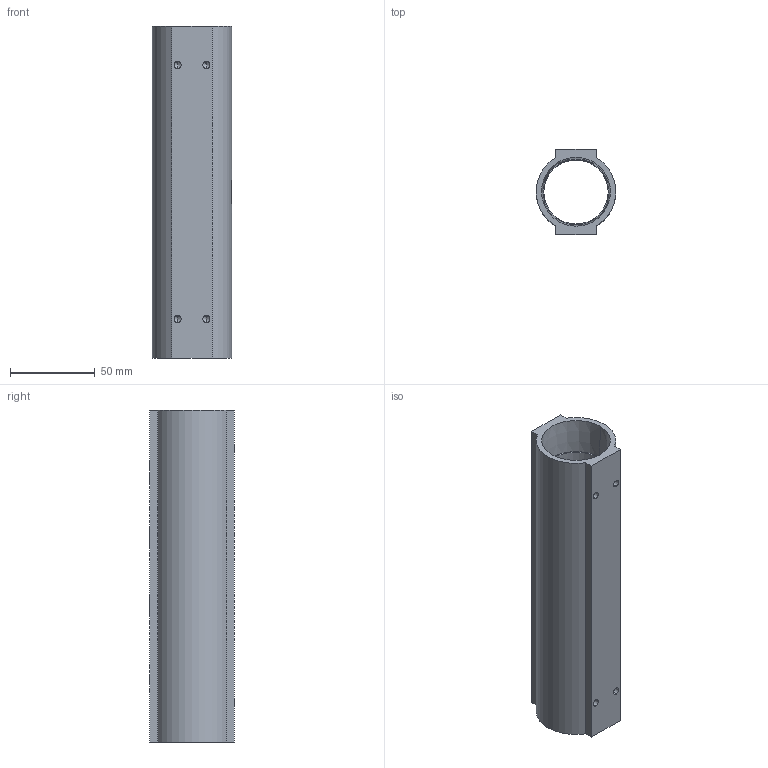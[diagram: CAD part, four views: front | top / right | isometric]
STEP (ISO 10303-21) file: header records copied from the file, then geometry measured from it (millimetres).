
FILE_DESCRIPTION (( 'STEP AP214' ), '1' );
FILE_NAME ('BWM4620B.STEP', '2022-03-15T05:38:50', ( '' ), ( '' ), 'SwSTEP 2.0', 'SolidWorks 2020', '' );
FILE_SCHEMA (( 'AUTOMOTIVE_DESIGN' ));
Length unit declared in the file: millimetre
Products named in the file (1): BWM4620B
Bounding box: 47 x 50 x 196 mm (x, y, z)
Volume: 131041.4 mm3; surface area: 57290 mm2
Topology: 1 solids, 1 shells, 215 faces, 574 edges, 376 vertices
Faces by surface type: plane 104, bspline 49, cylinder 42, cone 20
Entity records: 11704 total; most frequent: CARTESIAN_POINT 4905, ORIENTED_EDGE 1132, DIRECTION 762, EDGE_CURVE 566, VERTEX_POINT 376, LINE 288, VECTOR 288, EDGE_LOOP 248
